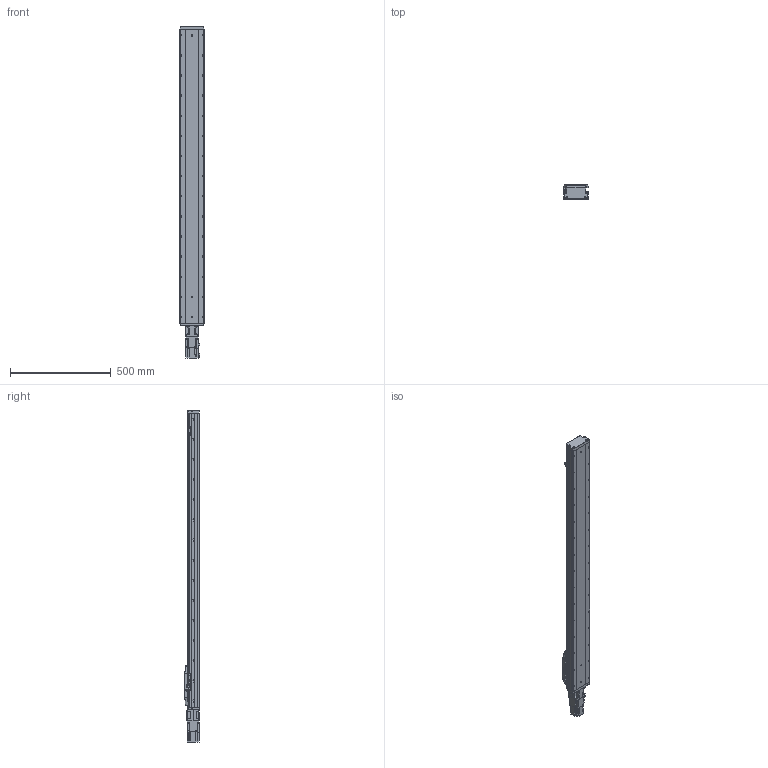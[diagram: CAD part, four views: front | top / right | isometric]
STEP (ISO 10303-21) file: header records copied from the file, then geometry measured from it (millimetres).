
FILE_DESCRIPTION (( 'STEP AP203' ), '1' );
FILE_NAME ('125.STEP', '2022-04-25T09:08:41', ( '' ), ( '' ), 'SwSTEP 2.0', 'SolidWorks 2016', '' );
FILE_SCHEMA (( 'CONFIG_CONTROL_DESIGN' ));
Length unit declared in the file: millimetre
Products named in the file (11): CTH12-BC-HZ; CTH12-BC-T40; CTH12-BC-03-W; CTH12-BC-06-T40; 125; CTH12-BC-05; CTH12-BC-04; CTH12-BC-01; CTH12-BC-07; CTH12-BC-菁釱; PM-Y45
Assembly tree (15 placements, depth 2):
  125
    CTH12-BC-菁釱
    CTH12-BC-01
    CTH12-BC-06-T40
    CTH12-BC-03-W
    CTH12-BC-04
    CTH12-BC-05  x2
    CTH12-BC-07  x3
    CTH12-BC-HZ
    CTH12-BC-T40
    PM-Y45  x3
Bounding box: 129 x 76 x 1649.5 mm (x, y, z)
Volume: 9899675.8 mm3; surface area: 823437.3 mm2
Topology: 25 solids, 25 shells, 1837 faces, 4850 edges, 3111 vertices
Faces by surface type: plane 984, cylinder 589, cone 178, bspline 86
Entity records: 55273 total; most frequent: CARTESIAN_POINT 14063, ORIENTED_EDGE 8360, DIRECTION 8130, EDGE_CURVE 4180, VECTOR 2768, LINE 2768, VERTEX_POINT 2711, AXIS2_PLACEMENT_3D 2681
